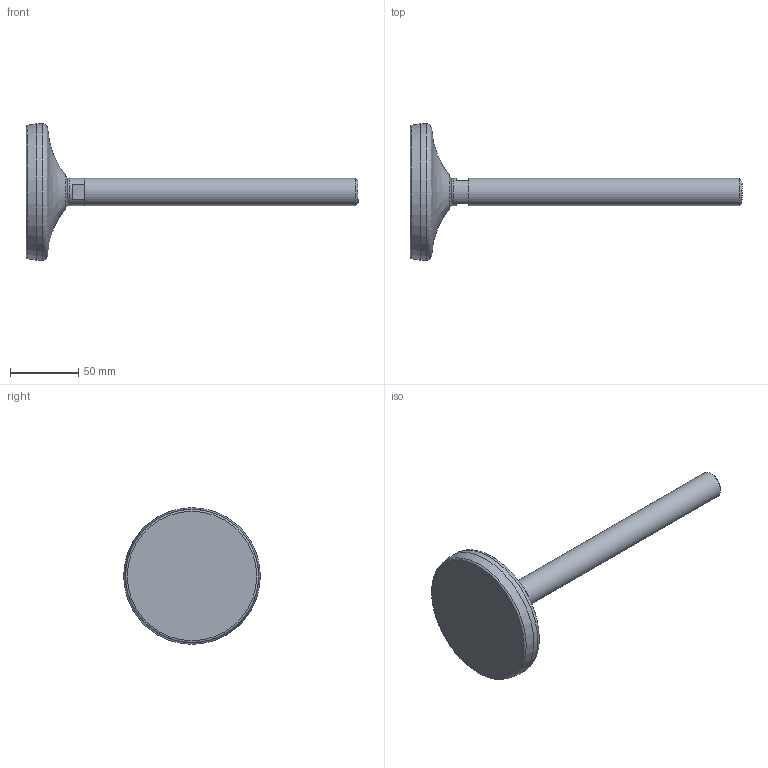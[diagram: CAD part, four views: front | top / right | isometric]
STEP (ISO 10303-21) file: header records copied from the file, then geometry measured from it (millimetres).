
FILE_DESCRIPTION(('STEP AP203'),'2;1');
FILE_NAME('25130.stp','2017-06-16T13:18:51',(''),(''),'2014.1.117','THINKDESIGN','');
FILE_SCHEMA(('CONFIG_CONTROL_DESIGN'));
Length unit declared in the file: millimetre
Bounding box: 243 x 100 x 100 mm (x, y, z)
Volume: 215298.8 mm3; surface area: 50268.5 mm2
Topology: 4 solids, 4 shells, 22 faces, 49 edges, 35 vertices
Faces by surface type: plane 12, bspline 7, cylinder 3
Full cylindrical faces by diameter (mm): 20 x2, 100 x1
Entity records: 1210 total; most frequent: CARTESIAN_POINT 610, DIRECTION 115, ORIENTED_EDGE 98, AXIS2_PLACEMENT_3D 51, EDGE_CURVE 49, CIRCLE 36, VERTEX_POINT 35, EDGE_LOOP 22
